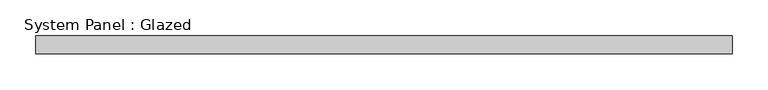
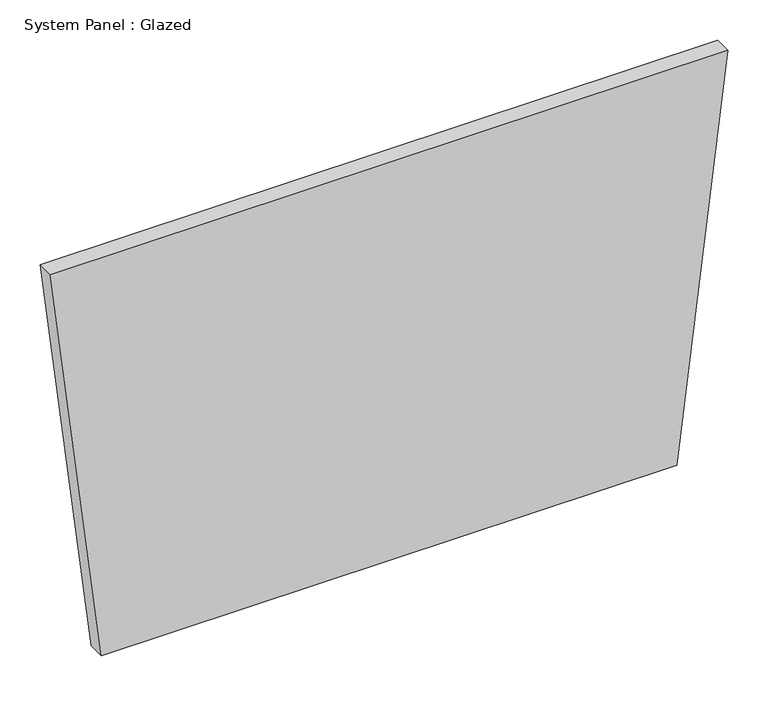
"""IFC4 building model written with IfcOpenShell, lengths in millimetres: plate geometry, System Panel : Glazed."""

from ifc_helpers import new_model, si_unit, frame, origin, place, context, project, spatial, polyline, outline, extrude, source, transform, mapped, element, save


def system_panel_glazed_72d94749(model_context):
    return source(origin(), model_context, "Body", "SweptSolid", [
        extrude(outline(polyline([(0.0, -413.4727432), (0.0, 413.4727432), (605.154476, 486.9589333), (605.154476, -486.9589333), (0.0, -413.4727432)])), frame((0.0, -44.45, 0.0), z_axis=(0.0, 1.0, 0.0), x_axis=(0.0, 0.0, 1.0)), (0.0, 0.0, 1.0), 25.4),
    ])


if __name__ == "__main__":
    model = new_model("IFC4")
    model_context = context("Model", 3, world=origin())
    ifc_project = project(units=[si_unit("LENGTHUNIT", "METRE", prefix="MILLI")], contexts=[model_context])
    site = spatial("IfcSite", under=ifc_project)
    building = spatial("IfcBuilding", under=site)
    placement = place(None, origin())
    system_panel_glazed_shape = system_panel_glazed_72d94749(model_context)
    element("IfcPlate", 1, ObjectType="System Panel : Glazed", at=placement, inside=building, context=model_context, shape_type="MappedRepresentation", body=[
        mapped(system_panel_glazed_shape, transform((0.0, 0.0, 0.0), x_axis=(1.0, 0.0, 0.0), y_axis=(0.0, 1.0, 0.0), z_axis=(0.0, 0.0, 1.0))),
    ])
    save(model, "model.ifc")
